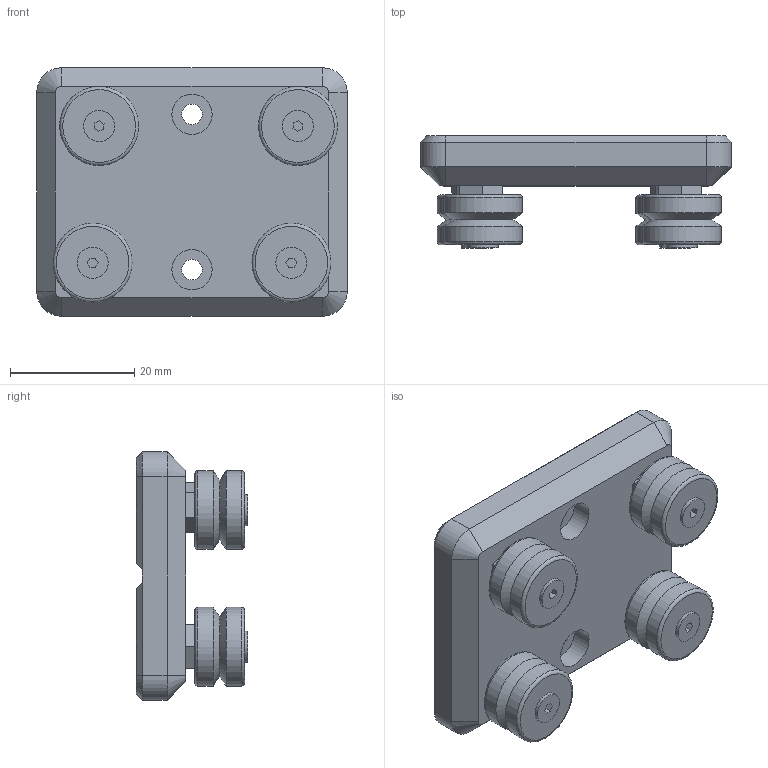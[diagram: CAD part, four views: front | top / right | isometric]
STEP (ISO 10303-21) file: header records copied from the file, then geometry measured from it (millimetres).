
FILE_DESCRIPTION(('STEP AP203'),'1');
FILE_NAME('//192.168.1.1/share/s-4 技術開発/s-4-4_CAD/s-4-4-3_見直し済み/RG 修正済み/RG_TOP/キャリッジプレート/RG-50(GS-12N).step','2022-03-28T01:52:35',(' '),(' '),'Spatial InterOp 3D',' ',' ');
FILE_SCHEMA(('CONFIG_CONTROL_DESIGN'));
Length unit declared in the file: millimetre
Products named in the file (13): 1; 2; 3; 4; 5; 6; 7; 8; 9; 10; 11; 12; 13
Bounding box: 50 x 18 x 40 mm (x, y, z)
Volume: 16806 mm3; surface area: 10166.9 mm2
Topology: 13 solids, 13 shells, 258 faces, 560 edges, 346 vertices
Faces by surface type: plane 134, cone 64, cylinder 48, torus 8, sphere 4
Full cylindrical faces by diameter (mm): 3.3 x6, 4 x12, 4.5 x4, 5 x4, 6.5 x2, 10 x4, 12.5 x4, 12.7 x8
Entity records: 7298 total; most frequent: CARTESIAN_POINT 1493, DIRECTION 1084, ORIENTED_EDGE 956, EDGE_CURVE 478, AXIS2_PLACEMENT_3D 431, EDGE_LOOP 368, VERTEX_POINT 328, FACE_OUTER_BOUND 310
